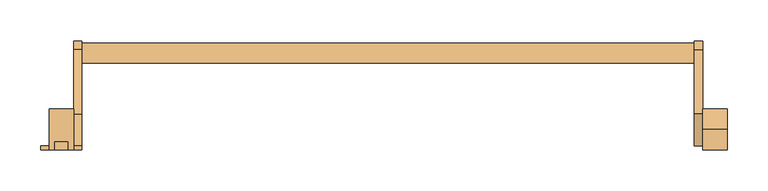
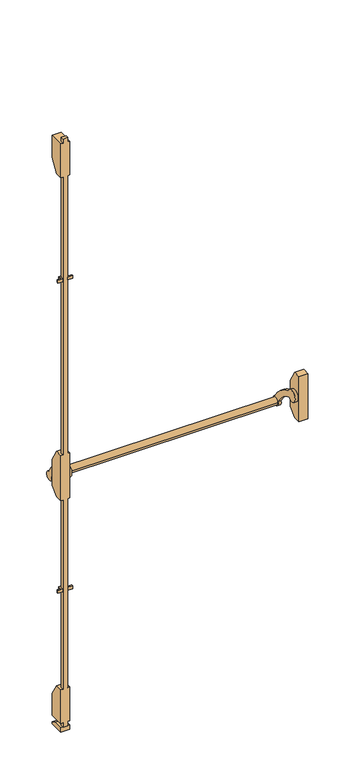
"""IFC4 building model written with IfcOpenShell, lengths in millimetres: door geometry, BarreAP : BarreAP."""

from ifc_helpers import new_model, si_unit, point, frame, frame_2d, origin, place, context, project, spatial, polyline, circle_curve, trimmed, segment, composite_curve, outline, extrude, faceted_brep, source, transform, mapped, element, save


def door_0872574b(model_context):
    return source(origin(), model_context, "Body", "SolidModel", [
        extrude(outline(composite_curve([segment(trimmed(circle_curve(frame_2d((118.8869712, 826.0898817)), 12.5), [point((131.3869712, 826.0898817))], [point((106.3869712, 826.0898817))], False, "CARTESIAN"), True, "CONTINUOUS"), segment(trimmed(circle_curve(frame_2d((118.8869712, 826.0898817)), 12.5), [point((106.3869712, 826.0898817))], [point((131.3869712, 826.0898817))], False, "CARTESIAN"), True, "CONTINUOUS")], self_intersect=False)), frame((25.0, 0.0, 0.0), z_axis=(1.0, 0.0, 0.0), x_axis=(0.0, 1.0, 0.0)), (0.0, 0.0, 1.0), 750.0),
        extrude(outline(composite_curve([segment(trimmed(circle_curve(frame_2d((0.0, 773.4981705)), 140.0), [point((43.940256, 906.4239163))], [point((122.9027189, 840.5423476))], False, "CARTESIAN"), True, "CONTINUOUS"), segment(trimmed(circle_curve(frame_2d((118.8869712, 826.0898817)), 15.0), [point((122.9027189, 840.5423476))], [point((104.960922, 831.663494))], False, "CARTESIAN"), True, "CONTINUOUS"), segment(trimmed(circle_curve(frame_2d((0.0, 773.4981705)), 120.0), [point((104.960922, 831.663494))], [point((39.9080609, 886.6677189))], True, "CARTESIAN"), True, "CONTINUOUS"), segment(trimmed(circle_curve(frame_2d((25.0, 900.0)), 20.0), [point((39.9080609, 886.6677189))], [point((43.940256, 906.4239163))], False, "CARTESIAN"), True, "CONTINUOUS")], self_intersect=False)), frame((775.0, 0.0, 0.0), z_axis=(1.0, 0.0, 0.0), x_axis=(0.0, 1.0, 0.0)), (0.0, 0.0, 1.0), 10.0),
        extrude(outline(composite_curve([segment(trimmed(circle_curve(frame_2d((0.0, 773.4981705)), 140.0), [point((43.940256, 906.4239163))], [point((122.9027189, 840.5423476))], False, "CARTESIAN"), True, "CONTINUOUS"), segment(trimmed(circle_curve(frame_2d((118.8869712, 826.0898817)), 15.0), [point((122.9027189, 840.5423476))], [point((104.960922, 831.663494))], False, "CARTESIAN"), True, "CONTINUOUS"), segment(trimmed(circle_curve(frame_2d((0.0, 773.4981705)), 120.0), [point((104.960922, 831.663494))], [point((39.9080609, 886.6677189))], True, "CARTESIAN"), True, "CONTINUOUS"), segment(trimmed(circle_curve(frame_2d((25.0, 900.0)), 20.0), [point((39.9080609, 886.6677189))], [point((43.940256, 906.4239163))], False, "CARTESIAN"), True, "CONTINUOUS")], self_intersect=False)), frame((15.0, 0.0, 0.0), z_axis=(1.0, 0.0, 0.0), x_axis=(0.0, 1.0, 0.0)), (0.0, 0.0, 1.0), 10.0),
        extrude(outline(polyline([(50.0, 936.6987298), (50.0, 845.0), (25.0, 820.0), (0.0, 820.0), (0.0, 980.0), (25.0, 980.0), (50.0, 936.6987298)])), frame((785.0, 0.0, 0.0), z_axis=(1.0, 0.0, 0.0), x_axis=(0.0, 1.0, 0.0)), (0.0, 0.0, 1.0), 30.0),
        extrude(outline(polyline([(-13.0, 5.0), (-13.0, 15.0), (13.0, 15.0), (13.0, 5.0), (25.0, 5.0), (25.0, 0.0), (8.0, 0.0), (8.0, 10.0), (-8.0, 10.0), (-8.0, 0.0), (-25.0, 0.0), (-25.0, 5.0), (-13.0, 5.0)])), frame((0.0, 0.0, 1595.0), z_axis=(0.0, 0.0, 1.0), x_axis=(1.0, 0.0, 0.0)), (0.0, 0.0, 1.0), 10.0),
        faceted_brep([(15.0, 50.0, 2008.3012702), (15.0, 50.0, 2085.0), (15.0, 0.0, 2085.0), (15.0, 0.0, 1965.0), (15.0, 25.0, 1965.0), (15.0, 50.0, 106.6987298), (15.0, 25.0, 150.0), (15.0, 0.0, 150.0), (15.0, 0.0, 30.0), (15.0, 50.0, 30.0), (-15.0, 50.0, 2008.3012702), (-15.0, 25.0, 1965.0), (-15.0, 0.0, 1965.0), (-15.0, 0.0, 2085.0), (-15.0, 50.0, 2085.0), (-15.0, 50.0, 106.6987298), (-15.0, 50.0, 30.0), (-15.0, 0.0, 30.0), (-15.0, 0.0, 150.0), (-15.0, 25.0, 150.0), (8.0, 0.0, 1965.0), (8.0, 10.0, 1965.0), (-8.0, 10.0, 1965.0), (-8.0, 0.0, 1965.0), (8.0, 0.0, 2085.0), (8.0, 0.0, 2100.0), (-8.0, 0.0, 2100.0), (-8.0, 0.0, 2085.0), (-8.0, 0.0, 980.0), (-15.0, 0.0, 980.0), (-15.0, 0.0, 820.0), (-8.0, 0.0, 820.0), (-8.0, 0.0, 150.0), (-8.0, 0.0, 30.0), (-8.0, 0.0, 15.0), (8.0, 0.0, 15.0), (8.0, 0.0, 30.0), (8.0, 0.0, 150.0), (8.0, 0.0, 820.0), (15.0, 0.0, 820.0), (15.0, 0.0, 980.0), (8.0, 0.0, 980.0), (-8.0, 10.0, 2085.0), (8.0, 10.0, 2085.0), (8.0, 10.0, 30.0), (-8.0, 10.0, 30.0), (-8.0, 10.0, 150.0), (8.0, 10.0, 150.0), (8.0, 10.0, 2100.0), (-8.0, 10.0, 2100.0), (-8.0, 10.0, 15.0), (8.0, 10.0, 15.0), (-8.0, 10.0, 820.0), (-8.0, 10.0, 980.0), (8.0, 10.0, 820.0), (8.0, 10.0, 980.0), (15.0, 25.0, 980.0), (15.0, 25.0, 820.0), (15.0, 50.0, 845.0), (15.0, 50.0, 936.6987298), (-15.0, 25.0, 980.0), (-15.0, 50.0, 936.6987298), (-15.0, 50.0, 845.0), (-15.0, 25.0, 820.0)], [[[0, 1, 2, 3, 4]], [[5, 6, 7, 8, 9]], [[10, 11, 12, 13, 14]], [[15, 16, 17, 18, 19]], [[4, 11, 10, 0]], [[3, 20, 21, 22, 23, 12, 11, 4]], [[2, 24, 25, 26, 27, 13, 12, 23, 28, 29, 30, 31, 32, 18, 17, 33, 34, 35, 36, 8, 7, 37, 38, 39, 40, 41, 20, 3]], [[1, 14, 13, 27, 42, 43, 24, 2]], [[0, 10, 14, 1]], [[9, 16, 15, 5]], [[8, 36, 44, 45, 33, 17, 16, 9]], [[6, 19, 18, 32, 46, 47, 37, 7]], [[5, 15, 19, 6]], [[25, 48, 49, 26]], [[35, 34, 50, 51]], [[34, 33, 45, 50]], [[32, 31, 52, 46]], [[49, 42, 27, 26]], [[22, 53, 28, 23]], [[50, 45, 44, 51]], [[46, 52, 54, 47]], [[48, 43, 42, 49]], [[21, 55, 53, 22]], [[20, 41, 55, 21]], [[25, 24, 43, 48]], [[51, 44, 36, 35]], [[47, 54, 38, 37]], [[56, 40, 39, 57, 58, 59]], [[60, 61, 62, 63, 30, 29]], [[59, 61, 60, 56]], [[58, 62, 61, 59]], [[57, 63, 62, 58]], [[39, 38, 54, 52, 31, 30, 63, 57]], [[56, 60, 29, 28, 53, 55, 41, 40]]]),
        extrude(outline(polyline([(-8.0, 10.0), (-8.0, 0.0), (-25.0, 0.0), (-25.0, 5.0), (-13.0, 5.0), (-13.0, 15.0), (13.0, 15.0), (13.0, 5.0), (25.0, 5.0), (25.0, 0.0), (8.0, 0.0), (8.0, 10.0), (-8.0, 10.0)])), frame((0.0, 0.0, 495.0), z_axis=(0.0, 0.0, 1.0), x_axis=(1.0, 0.0, 0.0)), (0.0, 0.0, 1.0), 10.0),
        extrude(outline(polyline([(32.2782624, 15.0), (50.0, 6.7362181), (50.0, 0.0), (0.0, 0.0), (0.0, 15.0), (32.2782624, 15.0)])), frame((-15.0, 0.0, 0.0), z_axis=(1.0, 0.0, 0.0), x_axis=(0.0, 1.0, 0.0)), (0.0, 0.0, 1.0), 30.0),
    ])


if __name__ == "__main__":
    model = new_model("IFC4")
    model_context = context("Model", 3, world=origin())
    ifc_project = project(units=[si_unit("LENGTHUNIT", "METRE", prefix="MILLI")], contexts=[model_context])
    site = spatial("IfcSite", under=ifc_project)
    building = spatial("IfcBuilding", under=site)
    placement = place(None, origin())
    door_shape = door_0872574b(model_context)
    element("IfcDoor", 1, ObjectType="BarreAP : BarreAP", at=placement, inside=building, context=model_context, shape_type="MappedRepresentation", body=[
        mapped(door_shape, transform((0.0, 0.0, 0.0), x_axis=(1.0, 0.0, 0.0), y_axis=(0.0, 1.0, 0.0), z_axis=(0.0, 0.0, 1.0))),
    ])
    save(model, "model.ifc")
